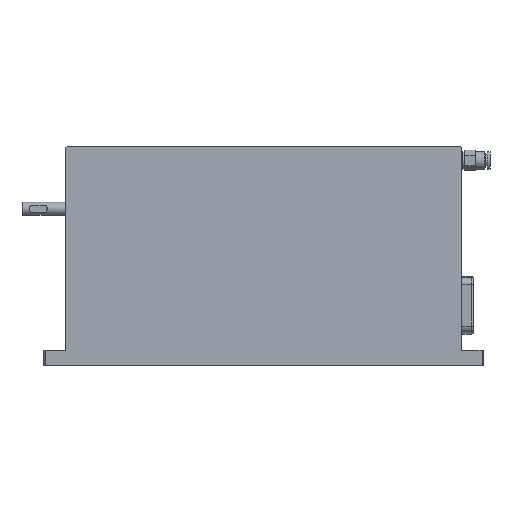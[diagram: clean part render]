
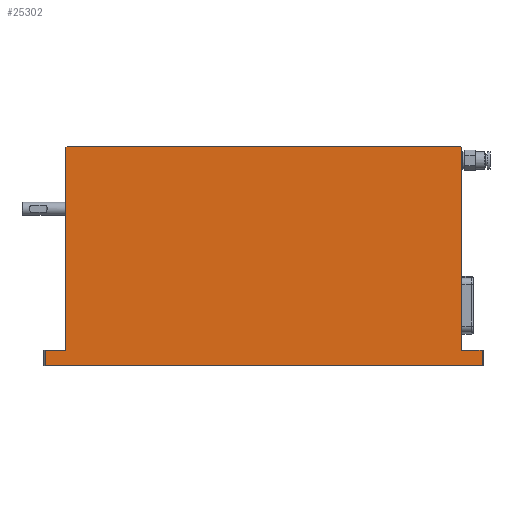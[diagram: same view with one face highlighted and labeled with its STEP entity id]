
A CAD part, top view. The second image highlights one B-rep face of the part: STEP entity #25302.
In plain terms, the highlighted planar face has unit normal (0, 0, 1).
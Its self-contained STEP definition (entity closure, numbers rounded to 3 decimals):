
#260 = CARTESIAN_POINT ( 'NONE',  ( 90., 50., 12.5 ) ) ;
#485 = VECTOR ( 'NONE', #3779, 1000. ) ;
#582 = CARTESIAN_POINT ( 'NONE',  ( 99.5, -43., 12.5 ) ) ;
#774 = VERTEX_POINT ( 'NONE', #1415 ) ;
#1092 = LINE ( 'NONE', #26142, #26642 ) ;
#1406 = CARTESIAN_POINT ( 'NONE',  ( 99.5, 0., 12.5 ) ) ;
#1415 = CARTESIAN_POINT ( 'NONE',  ( -90., -43., 12.5 ) ) ;
#1775 = VECTOR ( 'NONE', #14437, 1000. ) ;
#1878 = VERTEX_POINT ( 'NONE', #7512 ) ;
#2153 = EDGE_CURVE ( 'NONE', #774, #27651, #18965, .T. ) ;
#3779 = DIRECTION ( 'NONE',  ( 0., 1., 0. ) ) ;
#4871 = CARTESIAN_POINT ( 'NONE',  ( -89.5, 50., 12.5 ) ) ;
#5055 = AXIS2_PLACEMENT_3D ( 'NONE', #9450, #9163, #6918 ) ;
#5236 = DIRECTION ( 'NONE',  ( -1., 0., 0. ) ) ;
#5319 = CARTESIAN_POINT ( 'NONE',  ( 90., -50., 12.5 ) ) ;
#5438 = VERTEX_POINT ( 'NONE', #15961 ) ;
#5681 = EDGE_CURVE ( 'NONE', #1878, #12720, #17422, .T. ) ;
#5697 = DIRECTION ( 'NONE',  ( 0., 1., 0. ) ) ;
#6908 = DIRECTION ( 'NONE',  ( 0., -1., 0. ) ) ;
#6918 = DIRECTION ( 'NONE',  ( 1., 0., 0. ) ) ;
#7415 = LINE ( 'NONE', #9350, #12835 ) ;
#7512 = CARTESIAN_POINT ( 'NONE',  ( 90., 49.5, 12.5 ) ) ;
#7660 = VECTOR ( 'NONE', #5236, 1000. ) ;
#7870 = VECTOR ( 'NONE', #6908, 1000. ) ;
#7946 = EDGE_LOOP ( 'NONE', ( #21322, #9466, #9591, #11333, #24094, #23907, #10398, #11872, #15004, #12162 ) ) ;
#8046 = EDGE_CURVE ( 'NONE', #27651, #13299, #14062, .T. ) ;
#9163 = DIRECTION ( 'NONE',  ( 0., 0., 1. ) ) ;
#9350 = CARTESIAN_POINT ( 'NONE',  ( 90., -43., 12.5 ) ) ;
#9450 = CARTESIAN_POINT ( 'NONE',  ( 0., 0., 12.5 ) ) ;
#9466 = ORIENTED_EDGE ( 'NONE', *, *, #27751, .T. ) ;
#9522 = EDGE_CURVE ( 'NONE', #12720, #22885, #20699, .T. ) ;
#9540 = VECTOR ( 'NONE', #23570, 1000. ) ;
#9591 = ORIENTED_EDGE ( 'NONE', *, *, #17454, .F. ) ;
#10398 = ORIENTED_EDGE ( 'NONE', *, *, #18305, .T. ) ;
#10502 = EDGE_CURVE ( 'NONE', #19308, #13299, #28943, .T. ) ;
#11333 = ORIENTED_EDGE ( 'NONE', *, *, #2153, .T. ) ;
#11872 = ORIENTED_EDGE ( 'NONE', *, *, #16979, .T. ) ;
#12162 = ORIENTED_EDGE ( 'NONE', *, *, #5681, .T. ) ;
#12720 = VERTEX_POINT ( 'NONE', #13031 ) ;
#12835 = VECTOR ( 'NONE', #25143, 1000. ) ;
#13031 = CARTESIAN_POINT ( 'NONE',  ( 89.5, 50., 12.5 ) ) ;
#13299 = VERTEX_POINT ( 'NONE', #13592 ) ;
#13592 = CARTESIAN_POINT ( 'NONE',  ( -99.5, -50., 12.5 ) ) ;
#13857 = EDGE_CURVE ( 'NONE', #21525, #1878, #16672, .T. ) ;
#14062 = LINE ( 'NONE', #23154, #7870 ) ;
#14329 = LINE ( 'NONE', #19537, #9540 ) ;
#14437 = DIRECTION ( 'NONE',  ( 0., 1., 0. ) ) ;
#15004 = ORIENTED_EDGE ( 'NONE', *, *, #13857, .T. ) ;
#15961 = CARTESIAN_POINT ( 'NONE',  ( -90., 49.5, 12.5 ) ) ;
#16145 = CARTESIAN_POINT ( 'NONE',  ( -100., -43., 12.5 ) ) ;
#16672 = LINE ( 'NONE', #5319, #1775 ) ;
#16979 = EDGE_CURVE ( 'NONE', #20259, #21525, #7415, .T. ) ;
#17135 = CARTESIAN_POINT ( 'NONE',  ( 69.75, 69.75, 12.5 ) ) ;
#17422 = LINE ( 'NONE', #17135, #20608 ) ;
#17454 = EDGE_CURVE ( 'NONE', #774, #5438, #1092, .T. ) ;
#18098 = PLANE ( 'NONE',  #5055 ) ;
#18305 = EDGE_CURVE ( 'NONE', #19308, #20259, #25478, .T. ) ;
#18965 = LINE ( 'NONE', #16145, #7660 ) ;
#19308 = VERTEX_POINT ( 'NONE', #22073 ) ;
#19537 = CARTESIAN_POINT ( 'NONE',  ( -69.75, 69.75, 12.5 ) ) ;
#20259 = VERTEX_POINT ( 'NONE', #582 ) ;
#20608 = VECTOR ( 'NONE', #28463, 1000. ) ;
#20699 = LINE ( 'NONE', #260, #28424 ) ;
#21322 = ORIENTED_EDGE ( 'NONE', *, *, #9522, .T. ) ;
#21525 = VERTEX_POINT ( 'NONE', #23999 ) ;
#21745 = DIRECTION ( 'NONE',  ( -1., 0., 0. ) ) ;
#22073 = CARTESIAN_POINT ( 'NONE',  ( 99.5, -50., 12.5 ) ) ;
#22540 = CARTESIAN_POINT ( 'NONE',  ( 90., -50., 12.5 ) ) ;
#22885 = VERTEX_POINT ( 'NONE', #4871 ) ;
#23154 = CARTESIAN_POINT ( 'NONE',  ( -99.5, 0., 12.5 ) ) ;
#23570 = DIRECTION ( 'NONE',  ( -0.707, -0.707, 0. ) ) ;
#23907 = ORIENTED_EDGE ( 'NONE', *, *, #10502, .F. ) ;
#23999 = CARTESIAN_POINT ( 'NONE',  ( 90., -43., 12.5 ) ) ;
#24094 = ORIENTED_EDGE ( 'NONE', *, *, #8046, .T. ) ;
#25143 = DIRECTION ( 'NONE',  ( -1., 0., 0. ) ) ;
#25302 = ADVANCED_FACE ( 'NONE', ( #27347 ), #18098, .T. ) ;
#25478 = LINE ( 'NONE', #1406, #485 ) ;
#26142 = CARTESIAN_POINT ( 'NONE',  ( -90., -50., 12.5 ) ) ;
#26642 = VECTOR ( 'NONE', #5697, 1000. ) ;
#27347 = FACE_OUTER_BOUND ( 'NONE', #7946, .T. ) ;
#27597 = CARTESIAN_POINT ( 'NONE',  ( -99.5, -43., 12.5 ) ) ;
#27651 = VERTEX_POINT ( 'NONE', #27597 ) ;
#27751 = EDGE_CURVE ( 'NONE', #22885, #5438, #14329, .T. ) ;
#28424 = VECTOR ( 'NONE', #21745, 1000. ) ;
#28463 = DIRECTION ( 'NONE',  ( -0.707, 0.707, 0. ) ) ;
#28943 = LINE ( 'NONE', #22540, #29460 ) ;
#29243 = DIRECTION ( 'NONE',  ( -1., 0., 0. ) ) ;
#29460 = VECTOR ( 'NONE', #29243, 1000. ) ;
